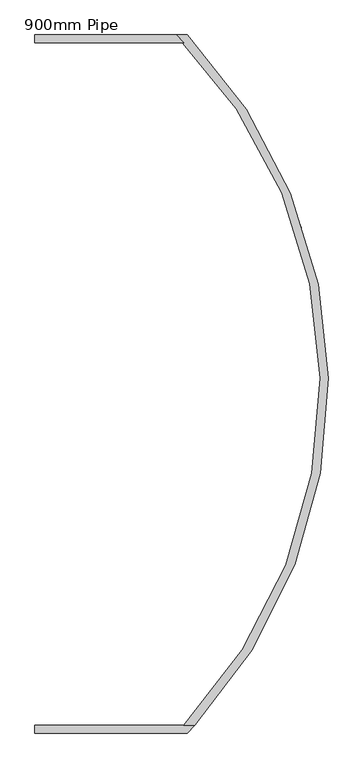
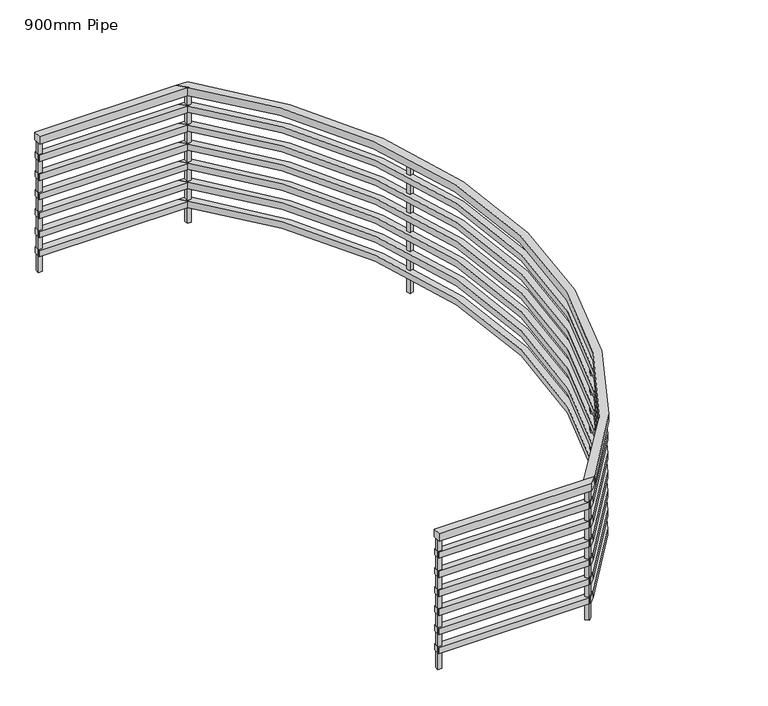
"""IFC4 building model written with IfcOpenShell, lengths in millimetres: railing geometry, 900mm Pipe."""

from ifc_helpers import new_model, si_unit, point, frame, frame_2d, origin, place, context, project, spatial, polyline, circle_curve, trimmed, segment, composite_curve, outline, extrude, source, transform, mapped, element, save


def railing_900mm_pipe_00438126(model_context):
    return source(origin(), model_context, "Body", "SweptSolid", [
        extrude(outline(polyline([(9362.8037835, 1617.6290541), (9362.8037835, 1667.6290541), (10241.9549687, 1667.6290541), (10289.8816187, 1617.6290541), (9362.8037835, 1617.6290541)])), frame((0.0, 0.0, 6650.0), z_axis=(0.0, 0.0, 1.0), x_axis=(1.0, 0.0, 0.0)), (0.0, 0.0, 1.0), 50.0),
        extrude(outline(composite_curve([segment(trimmed(circle_curve(frame_2d((8057.5374157, -507.3709459)), 3082.0239878), [point((10289.8561343, -2632.3709459))], [point((10241.1689921, 1667.6290541))], True, "CARTESIAN"), True, "CONTINUOUS"), segment(polyline([(10241.1689921, 1667.6290541), (10311.1898424, 1667.6290541)]), True, "CONTINUOUS"), segment(trimmed(circle_curve(frame_2d((8057.5374157, -507.3709459)), 3132.0239878), [point((10311.1898424, 1667.6290541))], [point((10358.3957904, -2632.3709459))], False, "CARTESIAN"), True, "CONTINUOUS"), segment(polyline([(10358.3957904, -2632.3709459), (10289.8561343, -2632.3709459)]), True, "CONTINUOUS")], self_intersect=False)), frame((0.0, 0.0, 6650.0), z_axis=(0.0, 0.0, 1.0), x_axis=(1.0, 0.0, 0.0)), (0.0, 0.0, 1.0), 50.0),
        extrude(outline(polyline([(10358.5151548, -2632.3709459), (10311.6410456, -2682.3709459), (9362.8037835, -2682.3709459), (9362.8037835, -2632.3709459), (10358.5151548, -2632.3709459)])), frame((0.0, 0.0, 6650.0), z_axis=(0.0, 0.0, 1.0), x_axis=(1.0, 0.0, 0.0)), (0.0, 0.0, 1.0), 50.0),
        extrude(outline(polyline([(9362.8037835, 1622.6290541), (9362.8037835, 1662.6290541), (10253.6736454, 1662.6290541), (10292.0149654, 1622.6290541), (9362.8037835, 1622.6290541)])), frame((0.0, 0.0, 6535.0), z_axis=(0.0, 0.0, 1.0), x_axis=(1.0, 0.0, 0.0)), (0.0, 0.0, 1.0), 40.0),
        extrude(outline(composite_curve([segment(trimmed(circle_curve(frame_2d((8057.5374157, -507.3709459)), 3087.0239878), [point((10291.998671, -2637.3709459))], [point((10253.1733376, 1662.6290541))], True, "CARTESIAN"), True, "CONTINUOUS"), segment(polyline([(10253.1733376, 1662.6290541), (10309.065568, 1662.6290541)]), True, "CONTINUOUS"), segment(trimmed(circle_curve(frame_2d((8057.5374157, -507.3709459)), 3127.0239878), [point((10309.065568, 1662.6290541))], [point((10346.9432383, -2637.3709459))], False, "CARTESIAN"), True, "CONTINUOUS"), segment(polyline([(10346.9432383, -2637.3709459), (10291.998671, -2637.3709459)]), True, "CONTINUOUS")], self_intersect=False)), frame((0.0, 0.0, 6535.0), z_axis=(0.0, 0.0, 1.0), x_axis=(1.0, 0.0, 0.0)), (0.0, 0.0, 1.0), 40.0),
        extrude(outline(polyline([(10347.0206968, -2637.3709459), (10309.3551133, -2677.3709459), (9362.8037835, -2677.3709459), (9362.8037835, -2637.3709459), (10347.0206968, -2637.3709459)])), frame((0.0, 0.0, 6535.0), z_axis=(0.0, 0.0, 1.0), x_axis=(1.0, 0.0, 0.0)), (0.0, 0.0, 1.0), 40.0),
        extrude(outline(polyline([(9362.8037835, 1622.6290541), (9362.8037835, 1662.6290541), (10253.6736454, 1662.6290541), (10292.0149654, 1622.6290541), (9362.8037835, 1622.6290541)])), frame((0.0, 0.0, 6410.0), z_axis=(0.0, 0.0, 1.0), x_axis=(1.0, 0.0, 0.0)), (0.0, 0.0, 1.0), 40.0),
        extrude(outline(composite_curve([segment(trimmed(circle_curve(frame_2d((8057.5374157, -507.3709459)), 3087.0239878), [point((10291.998671, -2637.3709459))], [point((10253.1733376, 1662.6290541))], True, "CARTESIAN"), True, "CONTINUOUS"), segment(polyline([(10253.1733376, 1662.6290541), (10309.065568, 1662.6290541)]), True, "CONTINUOUS"), segment(trimmed(circle_curve(frame_2d((8057.5374157, -507.3709459)), 3127.0239878), [point((10309.065568, 1662.6290541))], [point((10346.9432383, -2637.3709459))], False, "CARTESIAN"), True, "CONTINUOUS"), segment(polyline([(10346.9432383, -2637.3709459), (10291.998671, -2637.3709459)]), True, "CONTINUOUS")], self_intersect=False)), frame((0.0, 0.0, 6410.0), z_axis=(0.0, 0.0, 1.0), x_axis=(1.0, 0.0, 0.0)), (0.0, 0.0, 1.0), 40.0),
        extrude(outline(polyline([(10347.0206968, -2637.3709459), (10309.3551133, -2677.3709459), (9362.8037835, -2677.3709459), (9362.8037835, -2637.3709459), (10347.0206968, -2637.3709459)])), frame((0.0, 0.0, 6410.0), z_axis=(0.0, 0.0, 1.0), x_axis=(1.0, 0.0, 0.0)), (0.0, 0.0, 1.0), 40.0),
        extrude(outline(polyline([(9362.8037835, 1622.6290541), (9362.8037835, 1662.6290541), (10253.6736454, 1662.6290541), (10292.0149654, 1622.6290541), (9362.8037835, 1622.6290541)])), frame((0.0, 0.0, 6285.0), z_axis=(0.0, 0.0, 1.0), x_axis=(1.0, 0.0, 0.0)), (0.0, 0.0, 1.0), 40.0),
        extrude(outline(composite_curve([segment(trimmed(circle_curve(frame_2d((8057.5374157, -507.3709459)), 3087.0239878), [point((10291.998671, -2637.3709459))], [point((10253.1733376, 1662.6290541))], True, "CARTESIAN"), True, "CONTINUOUS"), segment(polyline([(10253.1733376, 1662.6290541), (10309.065568, 1662.6290541)]), True, "CONTINUOUS"), segment(trimmed(circle_curve(frame_2d((8057.5374157, -507.3709459)), 3127.0239878), [point((10309.065568, 1662.6290541))], [point((10346.9432383, -2637.3709459))], False, "CARTESIAN"), True, "CONTINUOUS"), segment(polyline([(10346.9432383, -2637.3709459), (10291.998671, -2637.3709459)]), True, "CONTINUOUS")], self_intersect=False)), frame((0.0, 0.0, 6285.0), z_axis=(0.0, 0.0, 1.0), x_axis=(1.0, 0.0, 0.0)), (0.0, 0.0, 1.0), 40.0),
        extrude(outline(polyline([(10347.0206968, -2637.3709459), (10309.3551133, -2677.3709459), (9362.8037835, -2677.3709459), (9362.8037835, -2637.3709459), (10347.0206968, -2637.3709459)])), frame((0.0, 0.0, 6285.0), z_axis=(0.0, 0.0, 1.0), x_axis=(1.0, 0.0, 0.0)), (0.0, 0.0, 1.0), 40.0),
        extrude(outline(polyline([(9362.8037835, 1622.6290541), (9362.8037835, 1662.6290541), (10253.6736454, 1662.6290541), (10292.0149654, 1622.6290541), (9362.8037835, 1622.6290541)])), frame((0.0, 0.0, 6160.0), z_axis=(0.0, 0.0, 1.0), x_axis=(1.0, 0.0, 0.0)), (0.0, 0.0, 1.0), 40.0),
        extrude(outline(composite_curve([segment(trimmed(circle_curve(frame_2d((8057.5374157, -507.3709459)), 3087.0239878), [point((10291.998671, -2637.3709459))], [point((10253.1733376, 1662.6290541))], True, "CARTESIAN"), True, "CONTINUOUS"), segment(polyline([(10253.1733376, 1662.6290541), (10309.065568, 1662.6290541)]), True, "CONTINUOUS"), segment(trimmed(circle_curve(frame_2d((8057.5374157, -507.3709459)), 3127.0239878), [point((10309.065568, 1662.6290541))], [point((10346.9432383, -2637.3709459))], False, "CARTESIAN"), True, "CONTINUOUS"), segment(polyline([(10346.9432383, -2637.3709459), (10291.998671, -2637.3709459)]), True, "CONTINUOUS")], self_intersect=False)), frame((0.0, 0.0, 6160.0), z_axis=(0.0, 0.0, 1.0), x_axis=(1.0, 0.0, 0.0)), (0.0, 0.0, 1.0), 40.0),
        extrude(outline(polyline([(10347.0206968, -2637.3709459), (10309.3551133, -2677.3709459), (9362.8037835, -2677.3709459), (9362.8037835, -2637.3709459), (10347.0206968, -2637.3709459)])), frame((0.0, 0.0, 6160.0), z_axis=(0.0, 0.0, 1.0), x_axis=(1.0, 0.0, 0.0)), (0.0, 0.0, 1.0), 40.0),
        extrude(outline(polyline([(9362.8037835, 1622.6290541), (9362.8037835, 1662.6290541), (10253.6736454, 1662.6290541), (10292.0149654, 1622.6290541), (9362.8037835, 1622.6290541)])), frame((0.0, 0.0, 6035.0), z_axis=(0.0, 0.0, 1.0), x_axis=(1.0, 0.0, 0.0)), (0.0, 0.0, 1.0), 40.0),
        extrude(outline(composite_curve([segment(trimmed(circle_curve(frame_2d((8057.5374157, -507.3709459)), 3087.0239878), [point((10291.998671, -2637.3709459))], [point((10253.1733376, 1662.6290541))], True, "CARTESIAN"), True, "CONTINUOUS"), segment(polyline([(10253.1733376, 1662.6290541), (10309.065568, 1662.6290541)]), True, "CONTINUOUS"), segment(trimmed(circle_curve(frame_2d((8057.5374157, -507.3709459)), 3127.0239878), [point((10309.065568, 1662.6290541))], [point((10346.9432383, -2637.3709459))], False, "CARTESIAN"), True, "CONTINUOUS"), segment(polyline([(10346.9432383, -2637.3709459), (10291.998671, -2637.3709459)]), True, "CONTINUOUS")], self_intersect=False)), frame((0.0, 0.0, 6035.0), z_axis=(0.0, 0.0, 1.0), x_axis=(1.0, 0.0, 0.0)), (0.0, 0.0, 1.0), 40.0),
        extrude(outline(polyline([(10347.0206968, -2637.3709459), (10309.3551133, -2677.3709459), (9362.8037835, -2677.3709459), (9362.8037835, -2637.3709459), (10347.0206968, -2637.3709459)])), frame((0.0, 0.0, 6035.0), z_axis=(0.0, 0.0, 1.0), x_axis=(1.0, 0.0, 0.0)), (0.0, 0.0, 1.0), 40.0),
        extrude(outline(polyline([(9362.8037835, 1622.6290541), (9362.8037835, 1662.6290541), (10253.6736454, 1662.6290541), (10292.0149654, 1622.6290541), (9362.8037835, 1622.6290541)])), frame((0.0, 0.0, 5910.0), z_axis=(0.0, 0.0, 1.0), x_axis=(1.0, 0.0, 0.0)), (0.0, 0.0, 1.0), 40.0),
        extrude(outline(composite_curve([segment(trimmed(circle_curve(frame_2d((8057.5374157, -507.3709459)), 3087.0239878), [point((10291.998671, -2637.3709459))], [point((10253.1733376, 1662.6290541))], True, "CARTESIAN"), True, "CONTINUOUS"), segment(polyline([(10253.1733376, 1662.6290541), (10309.065568, 1662.6290541)]), True, "CONTINUOUS"), segment(trimmed(circle_curve(frame_2d((8057.5374157, -507.3709459)), 3127.0239878), [point((10309.065568, 1662.6290541))], [point((10346.9432383, -2637.3709459))], False, "CARTESIAN"), True, "CONTINUOUS"), segment(polyline([(10346.9432383, -2637.3709459), (10291.998671, -2637.3709459)]), True, "CONTINUOUS")], self_intersect=False)), frame((0.0, 0.0, 5910.0), z_axis=(0.0, 0.0, 1.0), x_axis=(1.0, 0.0, 0.0)), (0.0, 0.0, 1.0), 40.0),
        extrude(outline(polyline([(10347.0206968, -2637.3709459), (10309.3551133, -2677.3709459), (9362.8037835, -2677.3709459), (9362.8037835, -2637.3709459), (10347.0206968, -2637.3709459)])), frame((0.0, 0.0, 5910.0), z_axis=(0.0, 0.0, 1.0), x_axis=(1.0, 0.0, 0.0)), (0.0, 0.0, 1.0), 40.0),
        extrude(outline(polyline([(11020.8322729, -1482.2913272), (11012.9241872, -1506.0076124), (10989.207902, -1498.0995266), (10997.1159878, -1474.3832415), (11020.8322729, -1482.2913272)])), frame((0.0, 0.0, 5800.0), z_axis=(0.0, 0.0, 1.0), x_axis=(1.0, 0.0, 0.0)), (0.0, 0.0, 1.0), 850.0),
        extrude(outline(polyline([(11012.9241872, 491.2657205), (11020.8322729, 467.5494354), (10997.1159878, 459.6413497), (10989.207902, 483.3576348), (11012.9241872, 491.2657205)])), frame((0.0, 0.0, 5800.0), z_axis=(0.0, 0.0, 1.0), x_axis=(1.0, 0.0, 0.0)), (0.0, 0.0, 1.0), 850.0),
        extrude(outline(polyline([(10318.2220608, -2656.9967497), (10300.9225484, -2675.0446546), (10282.8746435, -2657.7451422), (10300.1741559, -2639.6972373), (10318.2220608, -2656.9967497)])), frame((0.0, 0.0, 5800.0), z_axis=(0.0, 0.0, 1.0), x_axis=(1.0, 0.0, 0.0)), (0.0, 0.0, 1.0), 850.0),
        extrude(outline(polyline([(10288.0483521, 1655.1290541), (10313.0483521, 1655.1290541), (10313.0483521, 1630.1290541), (10288.0483521, 1630.1290541), (10288.0483521, 1655.1290541)])), frame((0.0, 0.0, 5800.0), z_axis=(0.0, 0.0, 1.0), x_axis=(1.0, 0.0, 0.0)), (0.0, 0.0, 1.0), 850.0),
        extrude(outline(polyline([(9387.8037835, -2669.8709459), (9362.8037835, -2669.8709459), (9362.8037835, -2644.8709459), (9387.8037835, -2644.8709459), (9387.8037835, -2669.8709459)])), frame((0.0, 0.0, 5800.0), z_axis=(0.0, 0.0, 1.0), x_axis=(1.0, 0.0, 0.0)), (0.0, 0.0, 1.0), 850.0),
        extrude(outline(polyline([(9362.8037835, 1655.1290541), (9387.8037835, 1655.1290541), (9387.8037835, 1630.1290541), (9362.8037835, 1630.1290541), (9362.8037835, 1655.1290541)])), frame((0.0, 0.0, 5800.0), z_axis=(0.0, 0.0, 1.0), x_axis=(1.0, 0.0, 0.0)), (0.0, 0.0, 1.0), 850.0),
    ])


if __name__ == "__main__":
    model = new_model("IFC4")
    model_context = context("Model", 3, world=origin())
    ifc_project = project(units=[si_unit("LENGTHUNIT", "METRE", prefix="MILLI")], contexts=[model_context])
    site = spatial("IfcSite", under=ifc_project)
    building = spatial("IfcBuilding", under=site)
    placement = place(None, origin())
    railing_900mm_pipe_shape = railing_900mm_pipe_00438126(model_context)
    element("IfcRailing", 1, ObjectType="900mm Pipe", at=placement, inside=building, context=model_context, shape_type="MappedRepresentation", body=[
        mapped(railing_900mm_pipe_shape, transform((0.0, 0.0, 0.0), x_axis=(1.0, 0.0, 0.0), y_axis=(0.0, 1.0, 0.0), z_axis=(0.0, 0.0, 1.0))),
    ])
    save(model, "model.ifc")
